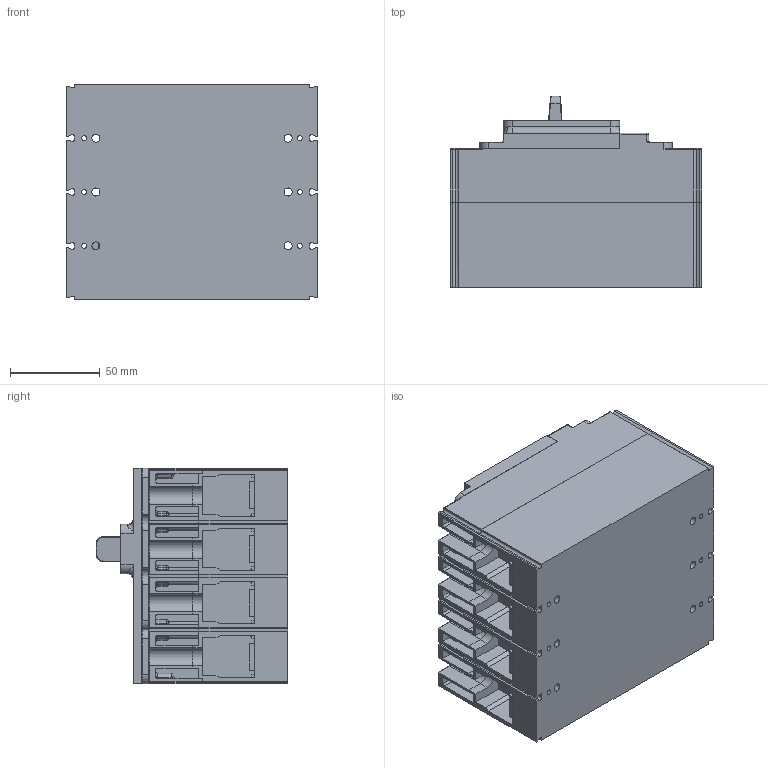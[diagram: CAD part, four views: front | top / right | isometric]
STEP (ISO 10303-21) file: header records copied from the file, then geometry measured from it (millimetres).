
FILE_DESCRIPTION((''),'2;1');
FILE_NAME('HGP160D_4P_ASM','2016-09-08T',('HHI'),(''),'PRO/ENGINEER BY PARAMETRIC TECHNOLOGY CORPORATION, 2012453','PRO/ENGINEER BY PARAMETRIC TECHNOLOGY CORPORATION, 2012453','');
FILE_SCHEMA(('CONFIG_CONTROL_DESIGN'));
Products named in the file (11): U1_DESIGN_4P_BASE_UGI; U1_DESIGN_4P_COVER_UGI; U1_DESIGN_4P_MCCB_FROM_UGI_ASM_ASM; MANIFOLD_SOLID_BREP_182181; U1_HANDLE_ASM; U1_3P_LEVER_ASSY_ASM_ASM; U1_3P_TOTAL_MAIN_ASSY_ASM_ASM; U1_FRONT_COVER; U1_TRIP_BUTTON; U1_3P_TOTAL_ASSY_ASM_ASM; HGP160D_4P_ASM
Assembly tree (10 placements, depth 6):
  HGP160D_4P_ASM
    U1_3P_TOTAL_ASSY_ASM_ASM
      U1_DESIGN_4P_MCCB_FROM_UGI_ASM_ASM
        U1_DESIGN_4P_BASE_UGI
        U1_DESIGN_4P_COVER_UGI
      U1_3P_TOTAL_MAIN_ASSY_ASM_ASM
        U1_3P_LEVER_ASSY_ASM_ASM
          U1_HANDLE_ASM
            MANIFOLD_SOLID_BREP_182181
      U1_FRONT_COVER
      U1_TRIP_BUTTON
Bounding box: 140 x 106.68 x 120 mm (x, y, z)
Volume: 1224638.3 mm3; surface area: 196720.9 mm2
Topology: 5 solids, 6 shells, 2110 faces, 5990 edges, 3879 vertices
Faces by surface type: plane 975, cylinder 719, torus 184, extrusion 78, bspline 59, cone 49, sphere 46
Entity records: 74570 total; most frequent: CARTESIAN_POINT 19315, ORIENTED_EDGE 11880, DIRECTION 11297, EDGE_CURVE 5940, VERTEX_POINT 3879, AXIS2_PLACEMENT_3D 3874, VECTOR 3549, LINE 3471
